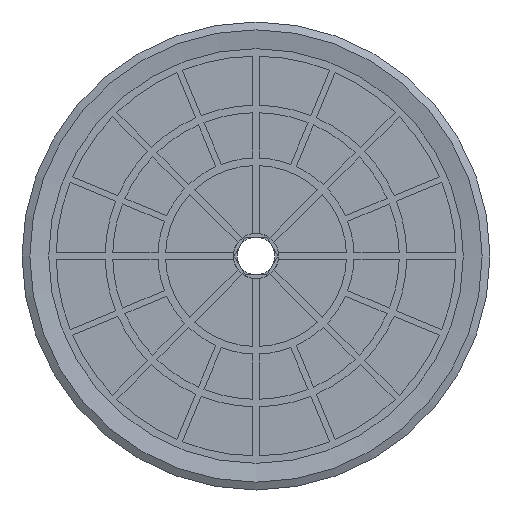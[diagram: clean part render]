
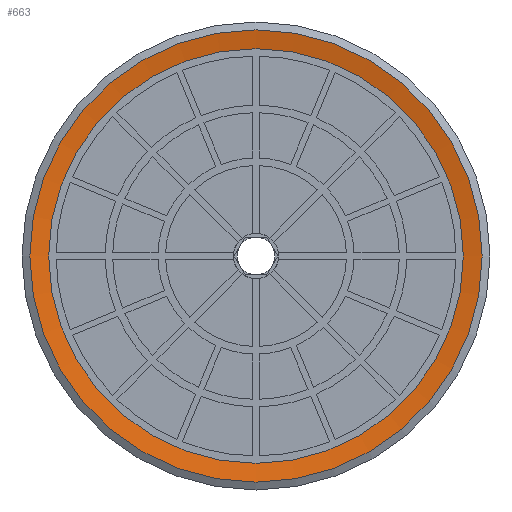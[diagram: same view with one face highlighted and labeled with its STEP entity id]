
A CAD part, front view. The second image highlights one B-rep face of the part: STEP entity #663.
In plain terms, the highlighted conical face has half-angle 80 degrees and reference radius 15 mm.
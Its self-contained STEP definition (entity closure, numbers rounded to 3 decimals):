
#663=ADVANCED_FACE('',(#1277,#1278),#1279,.F.);
#1277=FACE_BOUND('',#2015,.T.);
#1278=FACE_OUTER_BOUND('',#2016,.T.);
#1279=CONICAL_SURFACE('',#2017,15.0,1.396);
#2015=EDGE_LOOP('',(#3873));
#2016=EDGE_LOOP('',(#3874));
#2017=AXIS2_PLACEMENT_3D('',#3875,#3876,#3877);
#3873=ORIENTED_EDGE('',*,*,#5278,.T.);
#3874=ORIENTED_EDGE('',*,*,#5298,.F.);
#3875=CARTESIAN_POINT('',(0.0,0.,0.));
#3876=DIRECTION('',(0.0,0.,-1.0));
#3877=DIRECTION('',(0.0,1.0,0.));
#5278=EDGE_CURVE('',#6440,#6440,#6441,.T.);
#5298=EDGE_CURVE('',#6471,#6471,#6472,.T.);
#6440=VERTEX_POINT('',#8330);
#6441=CIRCLE('',#8331,13.75);
#6471=VERTEX_POINT('',#8374);
#6472=CIRCLE('',#8375,15.0);
#8330=CARTESIAN_POINT('',(0.0,-13.75,0.22));
#8331=AXIS2_PLACEMENT_3D('',#9571,#9572,#9573);
#8374=CARTESIAN_POINT('',(0.0,-15.0,0.));
#8375=AXIS2_PLACEMENT_3D('',#9605,#9606,#9607);
#9571=CARTESIAN_POINT('',(0.0,0.,0.22));
#9572=DIRECTION('',(0.0,0.,1.0));
#9573=DIRECTION('',(0.0,-1.0,0.));
#9605=CARTESIAN_POINT('',(0.0,0.,0.));
#9606=DIRECTION('',(0.0,0.,1.0));
#9607=DIRECTION('',(0.0,-1.0,0.));
